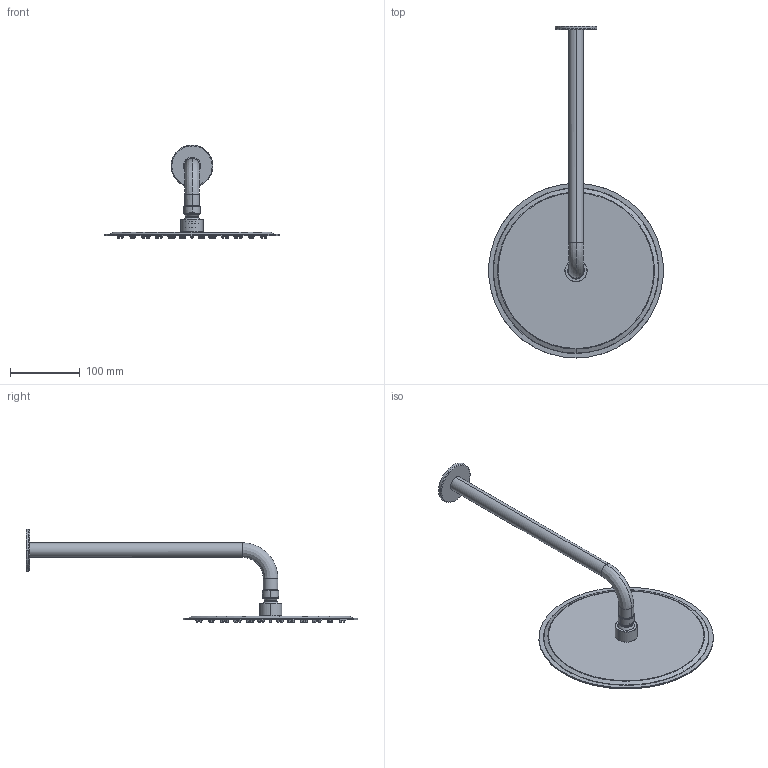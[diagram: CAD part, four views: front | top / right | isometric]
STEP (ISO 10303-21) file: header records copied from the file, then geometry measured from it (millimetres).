
FILE_DESCRIPTION(/* description */ (''),/* implementation_level */ '2;1');
FILE_NAME(/* name */ 'ST2084ACC',/* time_stamp */ '2024-02-26T11:44:26+01:00',/* author */ (''),/* organization */ (''),/* preprocessor_version */ 'ST-DEVELOPER v16.5',/* originating_system */ 'Rhino 7.36',/* authorisation */ '');
FILE_SCHEMA (('CONFIG_CONTROL_DESIGN'));
Length unit declared in the file: millimetre
Products named in the file (3): Document; T.RA1404; T.RA140
Assembly tree (2 placements, depth 3):
  Document
    T.RA1404
      T.RA140
Bounding box: 249.3 x 475 x 134.13 mm (x, y, z)
Volume: 126183.9 mm3; surface area: 269434.5 mm2
Topology: 94 solids, 97 shells, 1351 faces, 2896 edges, 1743 vertices
Faces by surface type: cylinder 574, bspline 573, plane 204
Entity records: 43135 total; most frequent: CARTESIAN_POINT 24499, ORIENTED_EDGE 5772, EDGE_CURVE 2892, VERTEX_POINT 1743, EDGE_LOOP 1727, ADVANCED_FACE 1351, FACE_OUTER_BOUND 1351, DIRECTION 794
